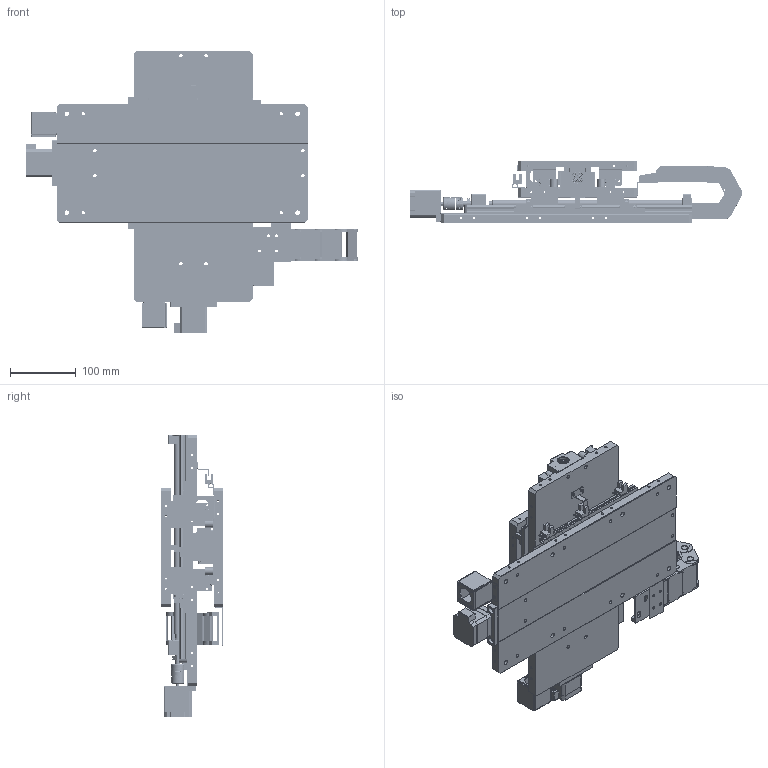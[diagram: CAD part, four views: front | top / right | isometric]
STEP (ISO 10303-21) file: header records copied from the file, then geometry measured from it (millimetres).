
FILE_DESCRIPTION (( 'STEP AP203' ), '1' );
FILE_NAME ('OME-TAB18-XY-1505-1505-P-M42-S001.STEP', '2023-09-19T03:51:16', ( '' ), ( '' ), 'SwSTEP 2.0', 'SolidWorks 2020', '' );
FILE_SCHEMA (( 'CONFIG_CONTROL_DESIGN' ));
Products named in the file (1): OME-TAB18-XY-1505-1505-P-M42-S001
Bounding box: 503.5 x 95 x 427 mm (x, y, z)
Surface area: 720279.8 mm2 (no closed solid volume)
Topology: 0 solids, 162 shells, 2168 faces, 9893 edges, 7719 vertices
Faces by surface type: plane 1342, cylinder 703, cone 90, bspline 33
Full cylindrical faces by diameter (mm): 1 x7, 2 x1, 2.5 x54, 2.6 x4, 3.1 x16, 3.3 x70, 3.5 x31, 4 x10, 4.2 x7, 4.5 x2, 5 x38, 5.7 x2, 6 x13, 6.5 x8, 6.6 x2, 7 x8, 7.5 x16, 8 x36, 10 x22, 11 x14, 11.5 x2, 12 x11, 13.5 x4, 16.1 x1, 17 x2, 23 x2, 25 x2, 28 x2
Entity records: 102824 total; most frequent: CARTESIAN_POINT 25610, DIRECTION 15547, ORIENTED_EDGE 13153, EDGE_CURVE 9312, VERTEX_POINT 7597, VECTOR 6239, LINE 6239, AXIS2_PLACEMENT_3D 4654
